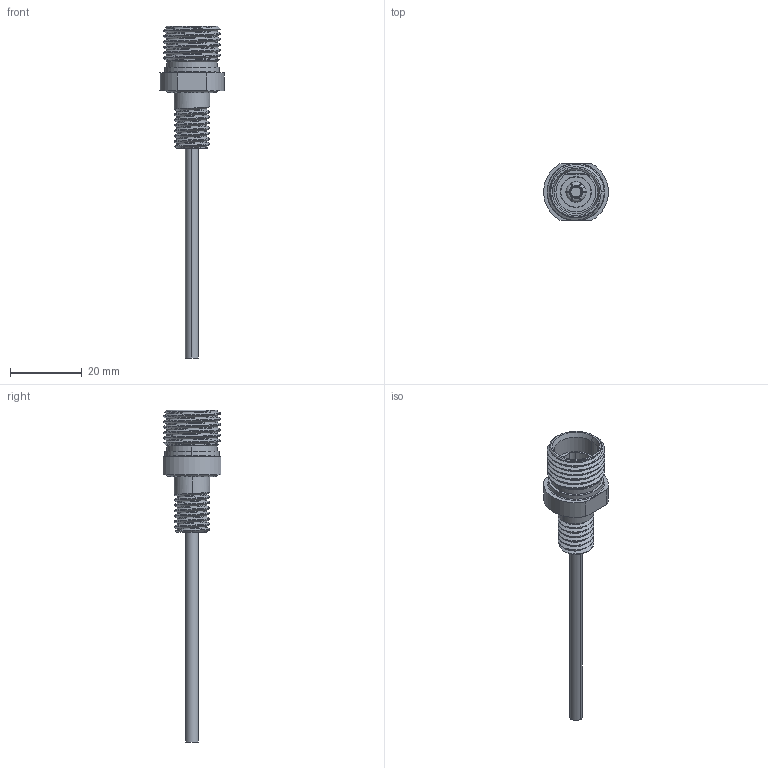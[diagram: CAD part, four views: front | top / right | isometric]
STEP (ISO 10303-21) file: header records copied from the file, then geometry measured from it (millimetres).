
FILE_DESCRIPTION (( 'STEP AP203' ), '1' );
FILE_NAME ('COB-1110 Bulkhead 1 Pin.STEP', '2023-12-01T17:46:27', ( '' ), ( '' ), 'SwSTEP 2.0', 'SolidWorks 2022', '' );
FILE_SCHEMA (( 'CONFIG_CONTROL_DESIGN' ));
Length unit declared in the file: millimetre
Products named in the file (1): COB-1110 Bulkhead 1 Pin
Bounding box: 17.97 x 16 x 92.25 mm (x, y, z)
Volume: 3748.9 mm3; surface area: 4073.3 mm2
Topology: 2 solids, 2 shells, 134 faces, 349 edges, 227 vertices
Faces by surface type: cylinder 53, plane 40, cone 22, torus 13, bspline 6
Entity records: 8233 total; most frequent: CARTESIAN_POINT 5053, ORIENTED_EDGE 698, DIRECTION 611, EDGE_CURVE 349, AXIS2_PLACEMENT_3D 250, VERTEX_POINT 227, EDGE_LOOP 144, ADVANCED_FACE 134
